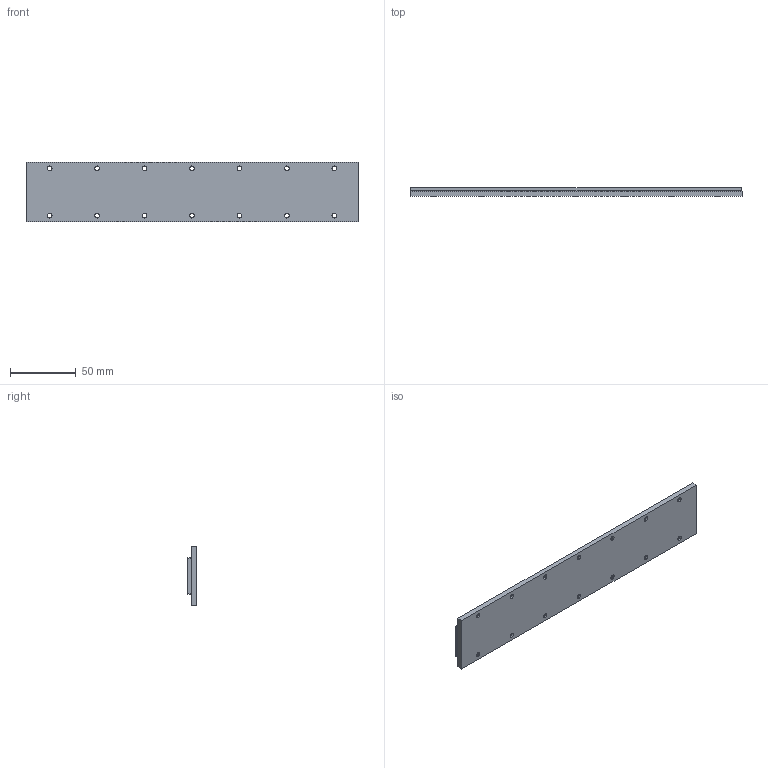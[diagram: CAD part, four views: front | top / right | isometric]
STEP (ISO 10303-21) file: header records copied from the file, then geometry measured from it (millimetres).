
FILE_DESCRIPTION (( 'STEP AP203' ), '1' );
FILE_NAME ('CMI252.STEP', '2025-12-28T08:07:01', ( '' ), ( '' ), 'SwSTEP 2.0', 'SolidWorks 2024', '' );
FILE_SCHEMA (( 'CONFIG_CONTROL_DESIGN' ));
Length unit declared in the file: millimetre
Products named in the file (1): CMI252
Bounding box: 252 x 6.7 x 45 mm (x, y, z)
Volume: 62516.6 mm3; surface area: 29844.7 mm2
Topology: 1 solids, 1 shells, 123 faces, 296 edges, 192 vertices
Faces by surface type: cylinder 60, plane 51, bspline 12
Entity records: 3959 total; most frequent: CARTESIAN_POINT 920, DIRECTION 616, ORIENTED_EDGE 592, EDGE_CURVE 296, AXIS2_PLACEMENT_3D 232, VERTEX_POINT 192, EDGE_LOOP 168, VECTOR 152
